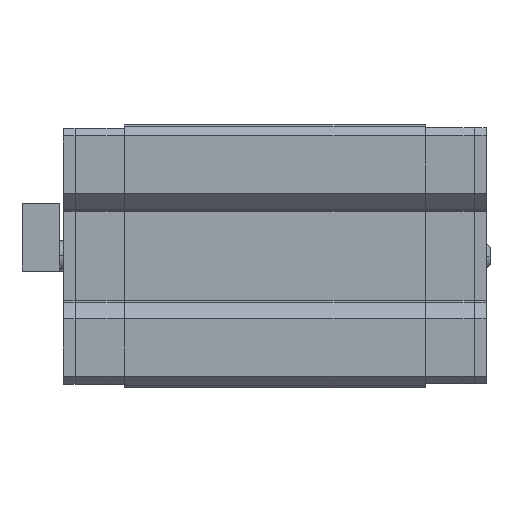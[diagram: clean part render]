
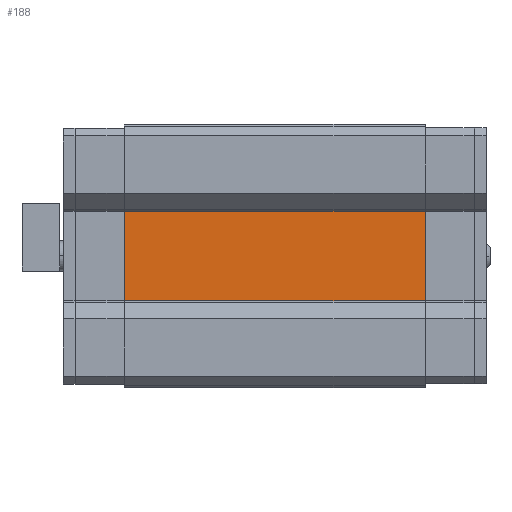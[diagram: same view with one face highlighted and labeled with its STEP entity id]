
A CAD part, front view. The second image highlights one B-rep face of the part: STEP entity #188.
In plain terms, the highlighted planar face has unit normal (0, -1, 0).
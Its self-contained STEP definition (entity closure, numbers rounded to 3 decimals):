
#188 = ADVANCED_FACE ( 'NONE', ( #2841 ), #2748, .T. ) ;
#1211 = CARTESIAN_POINT ( 'NONE',  ( 40., 0., 6.626 ) ) ;
#1216 = LINE ( 'NONE', #3026, #8035 ) ;
#1248 = EDGE_CURVE ( 'NONE', #10410, #4758, #5824, .T. ) ;
#1939 = EDGE_CURVE ( 'NONE', #2772, #6883, #1216, .T. ) ;
#2078 = DIRECTION ( 'NONE',  ( 0., -1., 0. ) ) ;
#2142 = LINE ( 'NONE', #1211, #3057 ) ;
#2461 = DIRECTION ( 'NONE',  ( 0., 0., 1. ) ) ;
#2516 = DIRECTION ( 'NONE',  ( -1., 0., 0. ) ) ;
#2748 = PLANE ( 'NONE',  #4101 ) ;
#2772 = VERTEX_POINT ( 'NONE', #3718 ) ;
#2841 = FACE_OUTER_BOUND ( 'NONE', #4023, .T. ) ;
#2905 = CARTESIAN_POINT ( 'NONE',  ( -40., 0., 13.251 ) ) ;
#3026 = CARTESIAN_POINT ( 'NONE',  ( 56.2, 0., -13.251 ) ) ;
#3057 = VECTOR ( 'NONE', #7269, 1000. ) ;
#3718 = CARTESIAN_POINT ( 'NONE',  ( 40., 0., -13.251 ) ) ;
#4023 = EDGE_LOOP ( 'NONE', ( #10319, #9865, #8729, #5742 ) ) ;
#4101 = AXIS2_PLACEMENT_3D ( 'NONE', #2905, #2078, #6170 ) ;
#4758 = VERTEX_POINT ( 'NONE', #6560 ) ;
#5103 = CARTESIAN_POINT ( 'NONE',  ( 56.2, 0., 13.251 ) ) ;
#5742 = ORIENTED_EDGE ( 'NONE', *, *, #1248, .T. ) ;
#5824 = LINE ( 'NONE', #5103, #10686 ) ;
#6122 = VECTOR ( 'NONE', #2461, 1000. ) ;
#6170 = DIRECTION ( 'NONE',  ( 0., 0., -1. ) ) ;
#6560 = CARTESIAN_POINT ( 'NONE',  ( -40., 0., 13.251 ) ) ;
#6883 = VERTEX_POINT ( 'NONE', #10804 ) ;
#7269 = DIRECTION ( 'NONE',  ( 0., 0., -1. ) ) ;
#7986 = DIRECTION ( 'NONE',  ( -1., 0., 0. ) ) ;
#8035 = VECTOR ( 'NONE', #7986, 1000. ) ;
#8515 = EDGE_CURVE ( 'NONE', #6883, #4758, #9376, .T. ) ;
#8671 = CARTESIAN_POINT ( 'NONE',  ( 40., 0., 13.251 ) ) ;
#8729 = ORIENTED_EDGE ( 'NONE', *, *, #9585, .F. ) ;
#9376 = LINE ( 'NONE', #10217, #6122 ) ;
#9585 = EDGE_CURVE ( 'NONE', #10410, #2772, #2142, .T. ) ;
#9865 = ORIENTED_EDGE ( 'NONE', *, *, #1939, .F. ) ;
#10217 = CARTESIAN_POINT ( 'NONE',  ( -40., 0., 6.626 ) ) ;
#10319 = ORIENTED_EDGE ( 'NONE', *, *, #8515, .F. ) ;
#10410 = VERTEX_POINT ( 'NONE', #8671 ) ;
#10686 = VECTOR ( 'NONE', #2516, 1000. ) ;
#10804 = CARTESIAN_POINT ( 'NONE',  ( -40., 0., -13.251 ) ) ;
